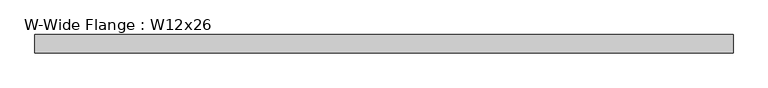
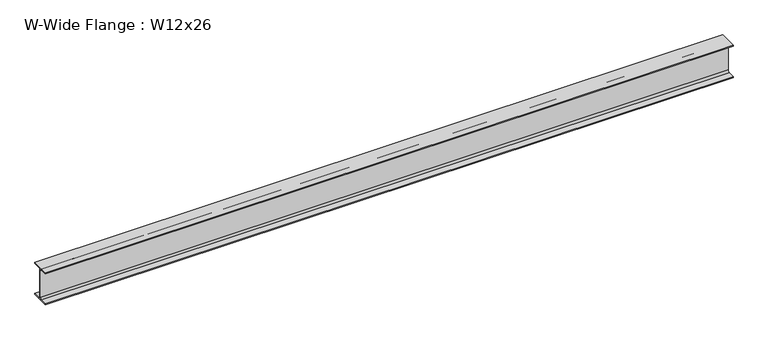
"""IFC4 building model written with IfcOpenShell, lengths in millimetres: beam geometry, W-Wide Flange : W12x26."""

from ifc_helpers import new_model, si_unit, point, frame, frame_2d, origin, place, context, project, spatial, polyline, circle_curve, trimmed, segment, composite_curve, outline, extrude, source, transform, mapped, element, save


def w_wide_flange_w12x26_f21817d3(model_context):
    return source(origin(), model_context, "Body", "SweptSolid", [
        extrude(outline(composite_curve([segment(polyline([(82.423, -145.288), (82.423, -154.94), (-82.423, -154.94), (-82.423, -145.288), (-20.2565, -145.288)]), True, "CONTINUOUS"), segment(trimmed(circle_curve(frame_2d((-20.2565, -127.9525)), 17.3355), [point((-20.2565, -145.288))], [point((-2.921, -127.9525))], True, "CARTESIAN"), True, "CONTINUOUS"), segment(polyline([(-2.921, -127.9525), (-2.921, 127.9525)]), True, "CONTINUOUS"), segment(trimmed(circle_curve(frame_2d((-20.2565, 127.9525)), 17.3355), [point((-2.921, 127.9525))], [point((-20.2565, 145.288))], True, "CARTESIAN"), True, "CONTINUOUS"), segment(polyline([(-20.2565, 145.288), (-82.423, 145.288), (-82.423, 154.94), (82.423, 154.94), (82.423, 145.288), (20.2565, 145.288)]), True, "CONTINUOUS"), segment(trimmed(circle_curve(frame_2d((20.2565, 127.9525)), 17.3355), [point((20.2565, 145.288))], [point((2.921, 127.9525))], True, "CARTESIAN"), True, "CONTINUOUS"), segment(polyline([(2.921, 127.9525), (2.921, -127.9525)]), True, "CONTINUOUS"), segment(trimmed(circle_curve(frame_2d((20.2565, -127.9525)), 17.3355), [point((2.921, -127.9525))], [point((20.2565, -145.288))], True, "CARTESIAN"), True, "CONTINUOUS"), segment(polyline([(20.2565, -145.288), (82.423, -145.288)]), True, "CONTINUOUS")], self_intersect=False)), frame((-3139.313, 0.0, 0.0), z_axis=(1.0, 0.0, 0.0), x_axis=(0.0, 1.0, 0.0)), (0.0, 0.0, 1.0), 6227.826),
    ])


if __name__ == "__main__":
    model = new_model("IFC4")
    model_context = context("Model", 3, world=origin())
    ifc_project = project(units=[si_unit("LENGTHUNIT", "METRE", prefix="MILLI")], contexts=[model_context])
    site = spatial("IfcSite", under=ifc_project)
    building = spatial("IfcBuilding", under=site)
    placement = place(None, origin())
    w_wide_flange_w12x26_shape = w_wide_flange_w12x26_f21817d3(model_context)
    element("IfcBeam", 1, ObjectType="W-Wide Flange : W12x26", at=placement, inside=building, context=model_context, shape_type="MappedRepresentation", body=[
        mapped(w_wide_flange_w12x26_shape, transform((0.0, 0.0, 0.0), x_axis=(1.0, 0.0, 0.0), y_axis=(0.0, 1.0, 0.0), z_axis=(0.0, 0.0, 1.0))),
    ])
    save(model, "model.ifc")
